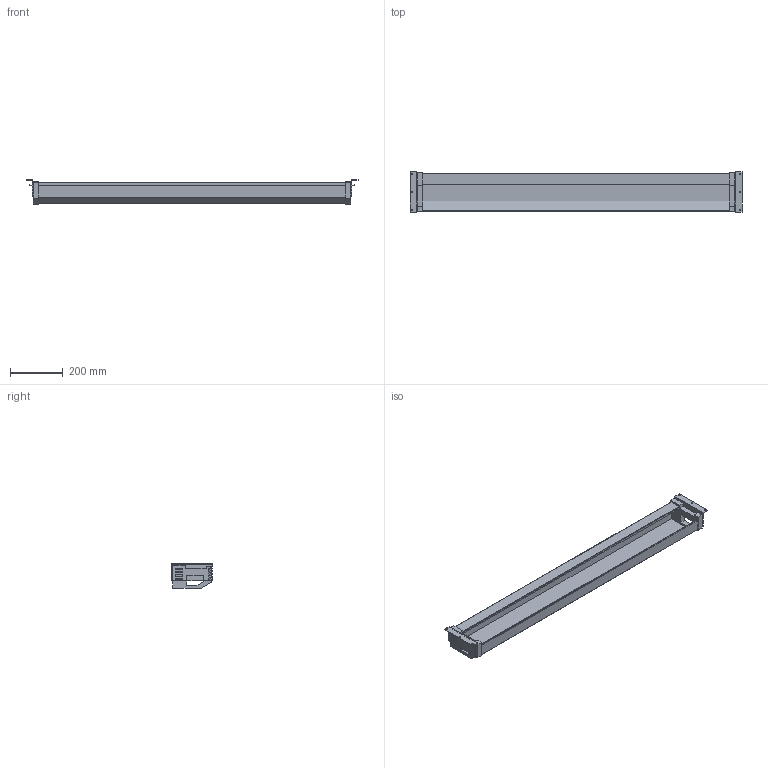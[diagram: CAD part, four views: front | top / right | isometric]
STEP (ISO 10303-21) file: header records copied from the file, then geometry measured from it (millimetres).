
FILE_DESCRIPTION( ( 'STEP AP214' ), '1' );
FILE_NAME( 'D:/Yug/2022/Actiforce_2022/QC/9309800.stp', '2022-03-02T07:25:28', ( '' ), ( '' ), ' ', 'PARTsolutions', ' ' );
FILE_SCHEMA( ( 'AUTOMOTIVE_DESIGN { 1 0 10303 214 1 1 1 1 }' ) );
Length unit declared in the file: millimetre
Products named in the file (4): 9309800; _tray_guide_cap_l; _metal_cable_tray; _tray_guide_cap_r
Assembly tree (3 placements, depth 2):
  9309800
    _tray_guide_cap_l
    _metal_cable_tray
    _tray_guide_cap_r
Bounding box: 1260 x 152 x 92.15 mm (x, y, z)
Volume: 816298.4 mm3; surface area: 882943 mm2
Topology: 3 solids, 3 shells, 144 faces, 396 edges, 264 vertices
Faces by surface type: plane 118, cylinder 26
Full cylindrical faces by diameter (mm): 4 x4, 5.5 x6
Entity records: 5768 total; most frequent: CARTESIAN_POINT 798, ORIENTED_EDGE 772, DIRECTION 734, EDGE_CURVE 386, LINE 334, VECTOR 334, VERTEX_POINT 264, AXIS2_PLACEMENT_3D 200
